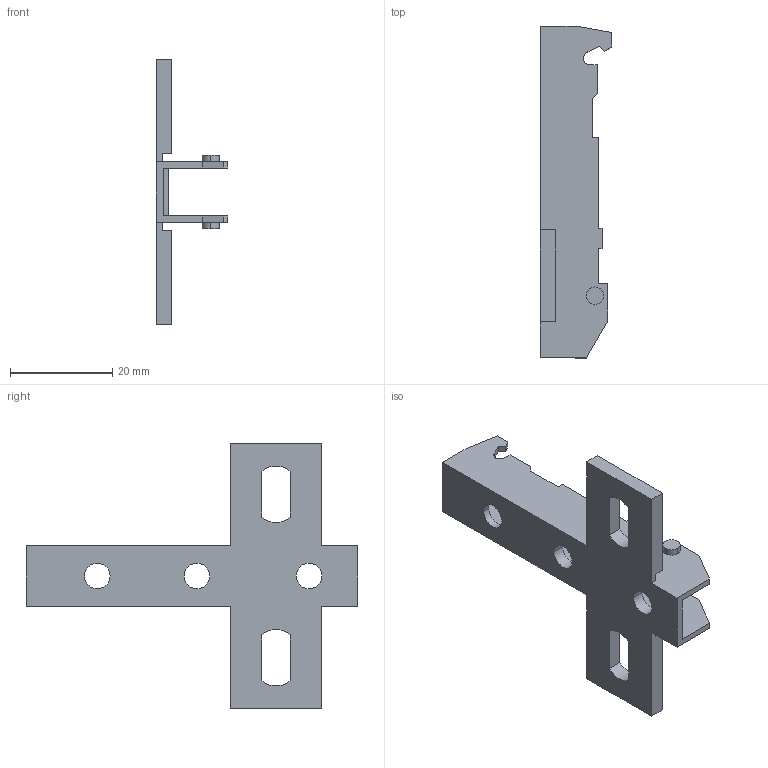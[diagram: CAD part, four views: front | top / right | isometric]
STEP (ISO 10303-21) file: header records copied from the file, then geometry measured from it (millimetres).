
FILE_DESCRIPTION (( 'STEP AP214' ), '1' );
FILE_NAME ('Eco Kreuzmontageplatte LR28_32_Euro_H3,5.step', '2010-11-18T10:05:51', ( 'grass' ), ( '' ), 'SwSTEP 2.0', 'SolidWorks 2010', '' );
FILE_SCHEMA (( 'AUTOMOTIVE_DESIGN' ));
Length unit declared in the file: millimetre
Products named in the file (1): Eco Kreuzmontageplatte LR28_32_Euro_H3,5
Bounding box: 14 x 65 x 52 mm (x, y, z)
Volume: 4560.4 mm3; surface area: 6152.6 mm2
Topology: 1 solids, 1 shells, 82 faces, 234 edges, 156 vertices
Faces by surface type: plane 66, cylinder 16
Entity records: 2704 total; most frequent: CARTESIAN_POINT 473, ORIENTED_EDGE 468, DIRECTION 432, EDGE_CURVE 234, VECTOR 202, LINE 202, VERTEX_POINT 156, AXIS2_PLACEMENT_3D 115
